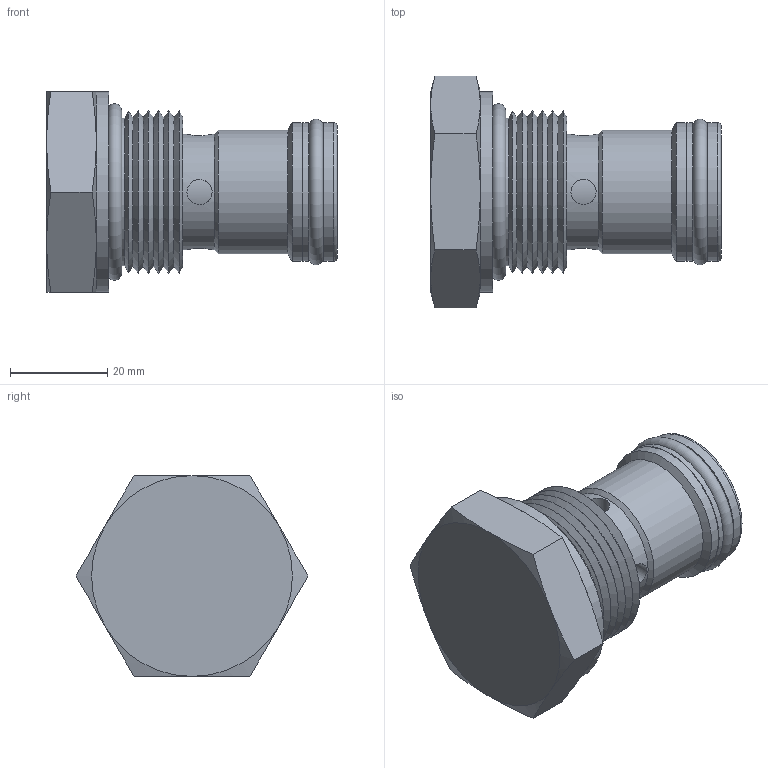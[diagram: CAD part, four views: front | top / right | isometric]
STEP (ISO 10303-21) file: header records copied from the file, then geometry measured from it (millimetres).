
FILE_DESCRIPTION(/* description */ (''),/* implementation_level */ '2;1');
FILE_NAME(/* name */ 'Q:\Delta CADD Insertion Codes\3D Solid models\Mechanical Valves\STEP\SJFCF00.stp',/* time_stamp */ '2016-12-08T13:31:41-06:00',/* author */ ('dan'),/* organization */ (''),/* preprocessor_version */ 'ST-DEVELOPER v16.1',/* originating_system */ 'Autodesk Inventor 2016',/* authorisation */ '');
FILE_SCHEMA (('AUTOMOTIVE_DESIGN { 1 0 10303 214 3 1 1 }'));
Length unit declared in the file: inch
Products named in the file (1): SJFCF00
Bounding box: 59.69 x 47.66 x 41.27 mm (x, y, z)
Volume: 1485.2 mm3; surface area: 13565.8 mm2
Topology: 3 solids, 7 shells, 77 faces, 153 edges, 93 vertices
Faces by surface type: cone 28, cylinder 23, plane 20, torus 6
Full cylindrical faces by diameter (mm): 5.156 x4, 8.636 x1, 12.954 x1, 17.482 x2, 18.669 x2, 23.698 x1, 24.181 x1, 24.232 x1, 25.4 x1, 28.524 x2, 28.55 x1, 30.328 x1, 41.275 x1
Entity records: 1989 total; most frequent: CARTESIAN_POINT 608, DIRECTION 284, ORIENTED_EDGE 218, AXIS2_PLACEMENT_3D 139, EDGE_LOOP 132, EDGE_CURVE 107, VERTEX_POINT 87, FACE_OUTER_BOUND 77
